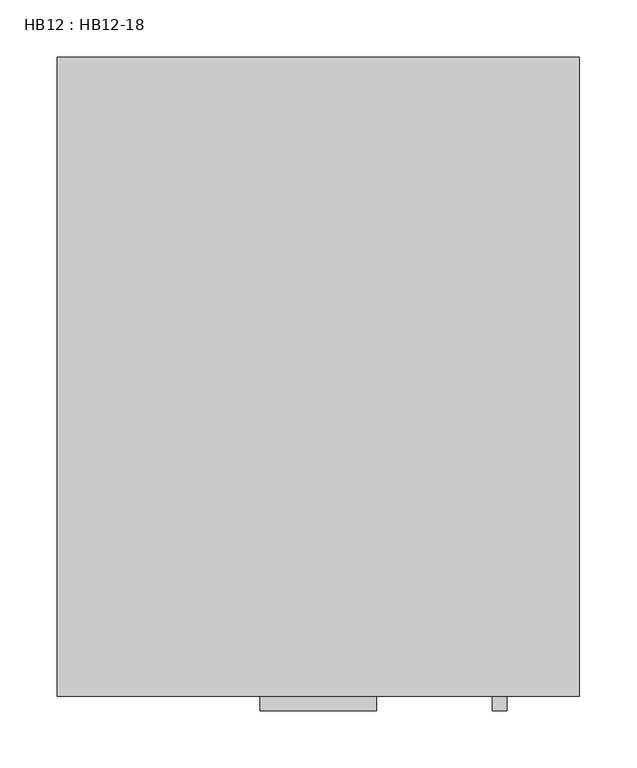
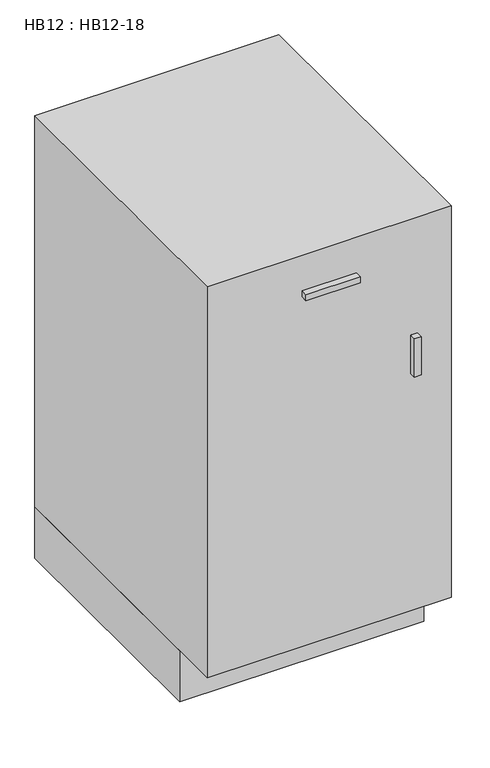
"""IFC4 building model written with IfcOpenShell, lengths in millimetres: furniture geometry, HB12 : HB12-18."""

from ifc_helpers import new_model, si_unit, frame, origin, origin_with_axes, place, context, project, spatial, polyline, outline, extrude, source, transform, mapped, element, save


def hb12_hb12_18_68083de8(model_context):
    return source(origin(), model_context, "Body", "SweptSolid", [
        extrude(outline(polyline([(247.3377049, 0.0), (247.3377049, -558.8), (-209.8622951, -558.8), (-209.8622951, 0.0), (247.3377049, 0.0)])), frame((0.0, 0.0, 101.6), z_axis=(0.0, 0.0, 1.0), x_axis=(1.0, 0.0, 0.0)), (0.0, 0.0, 1.0), 774.7),
        extrude(outline(polyline([(69.5377049, -571.5), (-32.0622951, -571.5), (-32.0622951, -558.8), (69.5377049, -558.8), (69.5377049, -571.5)])), frame((0.0, 0.0, 793.85), z_axis=(0.0, 0.0, 1.0), x_axis=(1.0, 0.0, 0.0)), (0.0, 0.0, 1.0), 12.6),
        extrude(outline(polyline([(183.7877049, -571.5), (171.1877049, -571.5), (171.1877049, -558.8), (183.7877049, -558.8), (183.7877049, -571.5)])), frame((0.0, 0.0, 571.5), z_axis=(0.0, 0.0, 1.0), x_axis=(1.0, 0.0, 0.0)), (0.0, 0.0, 1.0), 76.2),
        extrude(outline(polyline([(247.3377049, 0.0), (247.3377049, -469.9), (-209.8622951, -469.9), (-209.8622951, 0.0), (247.3377049, 0.0)])), origin_with_axes(), (0.0, 0.0, 1.0), 101.6),
    ])


if __name__ == "__main__":
    model = new_model("IFC4")
    model_context = context("Model", 3, world=origin())
    ifc_project = project(units=[si_unit("LENGTHUNIT", "METRE", prefix="MILLI")], contexts=[model_context])
    site = spatial("IfcSite", under=ifc_project)
    building = spatial("IfcBuilding", under=site)
    placement = place(None, origin())
    hb12_hb12_18_shape = hb12_hb12_18_68083de8(model_context)
    element("IfcFurniture", 1, ObjectType="HB12 : HB12-18", at=placement, inside=building, context=model_context, shape_type="MappedRepresentation", body=[
        mapped(hb12_hb12_18_shape, transform((0.0, 0.0, 0.0), x_axis=(1.0, 0.0, 0.0), y_axis=(0.0, 1.0, 0.0), z_axis=(0.0, 0.0, 1.0))),
    ])
    save(model, "model.ifc")
